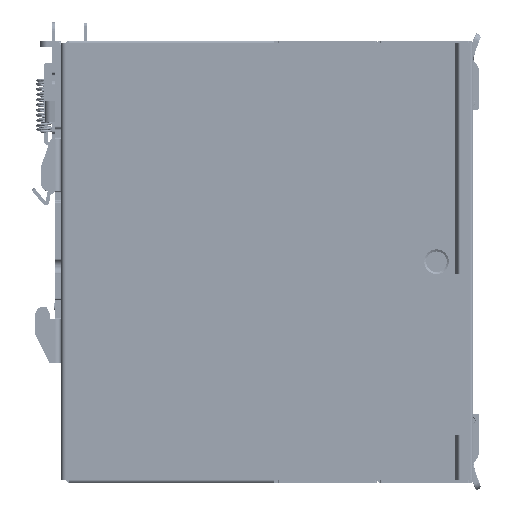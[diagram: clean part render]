
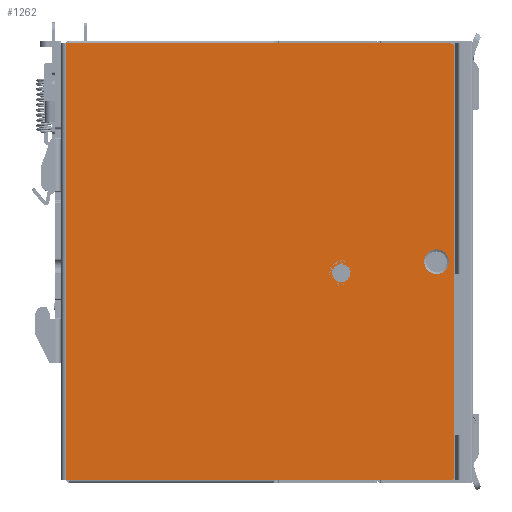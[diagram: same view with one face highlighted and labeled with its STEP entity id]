
A CAD part, front view. The second image highlights one B-rep face of the part: STEP entity #1262.
In plain terms, the highlighted planar face has unit normal (0, -1, 0).
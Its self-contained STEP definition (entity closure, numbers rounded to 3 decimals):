
#17=CARTESIAN_POINT('',(107.5,0.,-1.));
#18=DIRECTION('',(0.,1.,0.));
#19=DIRECTION('',(0.,0.,1.));
#20=AXIS2_PLACEMENT_3D('',#17,#18,#19);
#26=DIRECTION('',(0.,0.,-1.));
#27=VECTOR('',#26,120.);
#28=CARTESIAN_POINT('',(108.5,0.,-1.));
#29=LINE('',#28,#27);
#33=CARTESIAN_POINT('',(107.5,0.,-121.));
#34=DIRECTION('',(0.,1.,0.));
#35=DIRECTION('',(1.,0.,0.));
#36=AXIS2_PLACEMENT_3D('',#33,#34,#35);
#41=CARTESIAN_POINT('',(103.5,0.,-61.));
#42=DIRECTION('',(0.,-1.,0.));
#43=DIRECTION('',(-1.,0.,0.));
#44=AXIS2_PLACEMENT_3D('',#41,#42,#43);
#49=CARTESIAN_POINT('',(103.5,0.,-61.));
#50=DIRECTION('',(0.,-1.,0.));
#51=DIRECTION('',(0.,0.,-1.));
#52=AXIS2_PLACEMENT_3D('',#49,#50,#51);
#57=CARTESIAN_POINT('',(103.5,0.,-61.));
#58=DIRECTION('',(0.,-1.,0.));
#59=DIRECTION('',(1.,0.,0.));
#60=AXIS2_PLACEMENT_3D('',#57,#58,#59);
#65=CARTESIAN_POINT('',(103.5,0.,-61.));
#66=DIRECTION('',(0.,-1.,0.));
#67=DIRECTION('',(0.,0.,1.));
#68=AXIS2_PLACEMENT_3D('',#65,#66,#67);
#73=CARTESIAN_POINT('',(76.9,0.,-64.2));
#74=DIRECTION('',(0.,-1.,0.));
#75=DIRECTION('',(0.,0.,1.));
#76=AXIS2_PLACEMENT_3D('',#73,#74,#75);
#81=CARTESIAN_POINT('',(76.9,0.,-64.2));
#82=DIRECTION('',(0.,-1.,0.));
#83=DIRECTION('',(0.,0.,-1.));
#84=AXIS2_PLACEMENT_3D('',#81,#82,#83);
#89=DIRECTION('',(0.,0.,-1.));
#90=VECTOR('',#89,122.);
#91=CARTESIAN_POINT('',(0.,0.,0.));
#92=LINE('',#91,#90);
#132=DIRECTION('',(-1.,0.,0.));
#133=VECTOR('',#132,107.5);
#134=CARTESIAN_POINT('',(107.5,0.,0.));
#135=LINE('',#134,#133);
#271=DIRECTION('',(1.,0.,0.));
#272=VECTOR('',#271,107.5);
#273=CARTESIAN_POINT('',(0.,0.,-122.));
#274=LINE('',#273,#272);
#1051=CARTESIAN_POINT('',(0.,0.,0.));
#1052=CARTESIAN_POINT('',(0.,0.,-122.));
#1053=VERTEX_POINT('',#1051);
#1054=VERTEX_POINT('',#1052);
#1055=CARTESIAN_POINT('',(107.5,0.,0.));
#1056=VERTEX_POINT('',#1055);
#1057=CARTESIAN_POINT('',(108.5,0.,-1.));
#1058=VERTEX_POINT('',#1057);
#1059=CARTESIAN_POINT('',(108.5,0.,-121.));
#1060=VERTEX_POINT('',#1059);
#1061=CARTESIAN_POINT('',(107.5,0.,-122.));
#1062=VERTEX_POINT('',#1061);
#1063=CARTESIAN_POINT('',(103.5,0.,-64.45));
#1064=CARTESIAN_POINT('',(106.95,0.,-61.));
#1065=VERTEX_POINT('',#1063);
#1066=VERTEX_POINT('',#1064);
#1067=CARTESIAN_POINT('',(100.05,0.,-61.));
#1068=VERTEX_POINT('',#1067);
#1069=CARTESIAN_POINT('',(103.5,0.,-57.55));
#1070=VERTEX_POINT('',#1069);
#1071=CARTESIAN_POINT('',(76.9,0.,-61.7));
#1072=CARTESIAN_POINT('',(76.9,0.,-66.7));
#1073=VERTEX_POINT('',#1071);
#1074=VERTEX_POINT('',#1072);
#1227=CARTESIAN_POINT('',(0.,0.,0.));
#1228=DIRECTION('',(0.,1.,0.));
#1229=DIRECTION('',(1.,0.,0.));
#1230=AXIS2_PLACEMENT_3D('',#1227,#1228,#1229);
#1231=PLANE('',#1230);
#1233=ORIENTED_EDGE('',*,*,#1232,.F.);
#1235=ORIENTED_EDGE('',*,*,#1234,.F.);
#1237=ORIENTED_EDGE('',*,*,#1236,.T.);
#1239=ORIENTED_EDGE('',*,*,#1238,.T.);
#1241=ORIENTED_EDGE('',*,*,#1240,.T.);
#1243=ORIENTED_EDGE('',*,*,#1242,.F.);
#1244=EDGE_LOOP('',(#1233,#1235,#1237,#1239,#1241,#1243));
#1245=FACE_OUTER_BOUND('',#1244,.F.);
#1247=ORIENTED_EDGE('',*,*,#1246,.T.);
#1249=ORIENTED_EDGE('',*,*,#1248,.T.);
#1251=ORIENTED_EDGE('',*,*,#1250,.T.);
#1253=ORIENTED_EDGE('',*,*,#1252,.T.);
#1254=EDGE_LOOP('',(#1247,#1249,#1251,#1253));
#1255=FACE_BOUND('',#1254,.F.);
#1257=ORIENTED_EDGE('',*,*,#1256,.T.);
#1259=ORIENTED_EDGE('',*,*,#1258,.T.);
#1260=EDGE_LOOP('',(#1257,#1259));
#1261=FACE_BOUND('',#1260,.F.);
#1262=ADVANCED_FACE('',(#1245,#1255,#1261),#1231,.F.);
#21=CIRCLE('',#20,1.);
#37=CIRCLE('',#36,1.);
#45=CIRCLE('',#44,3.45);
#53=CIRCLE('',#52,3.45);
#61=CIRCLE('',#60,3.45);
#69=CIRCLE('',#68,3.45);
#77=CIRCLE('',#76,2.5);
#85=CIRCLE('',#84,2.5);
#1232=EDGE_CURVE('',#1053,#1054,#92,.T.);
#1234=EDGE_CURVE('',#1056,#1053,#135,.T.);
#1236=EDGE_CURVE('',#1056,#1058,#21,.T.);
#1238=EDGE_CURVE('',#1058,#1060,#29,.T.);
#1240=EDGE_CURVE('',#1060,#1062,#37,.T.);
#1242=EDGE_CURVE('',#1054,#1062,#274,.T.);
#1246=EDGE_CURVE('',#1068,#1065,#45,.T.);
#1248=EDGE_CURVE('',#1065,#1066,#53,.T.);
#1250=EDGE_CURVE('',#1066,#1070,#61,.T.);
#1252=EDGE_CURVE('',#1070,#1068,#69,.T.);
#1256=EDGE_CURVE('',#1073,#1074,#77,.T.);
#1258=EDGE_CURVE('',#1074,#1073,#85,.T.);
